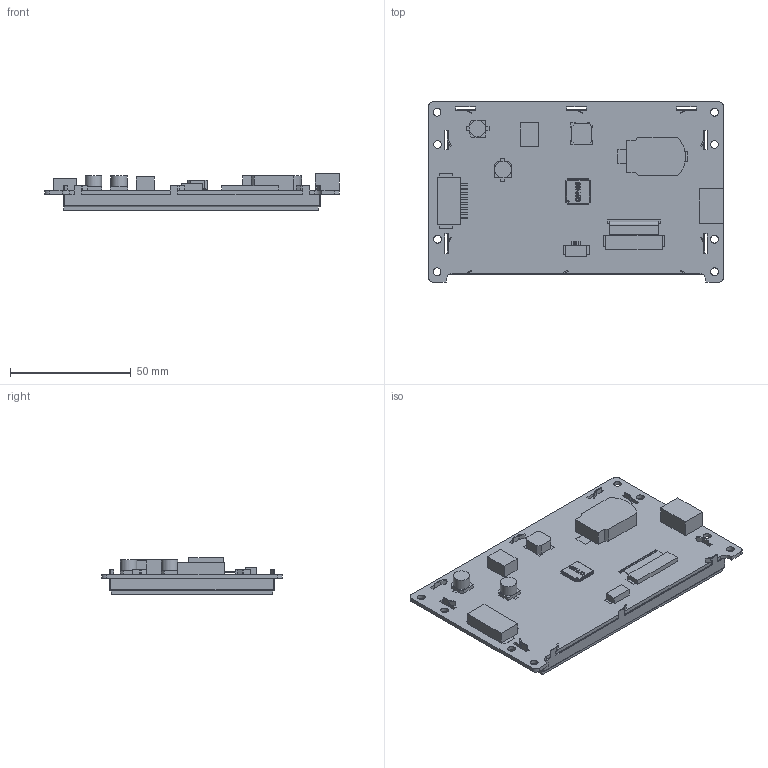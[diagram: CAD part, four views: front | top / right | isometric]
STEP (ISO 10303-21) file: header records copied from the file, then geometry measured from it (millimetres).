
FILE_DESCRIPTION(/* description */ (''),/* implementation_level */ '2;1');
FILE_NAME(/* name */ '3D-SDWb043U74T_stp.stp',/* time_stamp */ '2025-02-14T19:48:10+08:00',/* author */ (''),/* organization */ (''),/* preprocessor_version */ 'ST-DEVELOPER v16',/* originating_system */ 'SIEMENS PLM Software NX 10.0',/* authorisation */ '');
FILE_SCHEMA (('AP203_CONFIGURATION_CONTROLLED_3D_DESIGN_OF_MECHANICAL_PARTS_AND_ASSEMBLIES_MIM_LF { 1 0 10303 403 2 1 2}'));
Length unit declared in the file: millimetre
Products named in the file (1): 3D-SDWb043U74T_stp
Bounding box: 121.9 x 74.7 x 15.3 mm (x, y, z)
Volume: 31265 mm3; surface area: 46484 mm2
Topology: 19 solids, 19 shells, 1476 faces, 4215 edges, 2790 vertices
Faces by surface type: plane 1282, cylinder 187, bspline 7
Full cylindrical faces by diameter (mm): 3.2 x8, 6.776 x2
Entity records: 49546 total; most frequent: CARTESIAN_POINT 8879, ORIENTED_EDGE 8406, DIRECTION 7439, EDGE_CURVE 4203, LINE 3795, VECTOR 3795, VERTEX_POINT 2788, AXIS2_PLACEMENT_3D 1822
